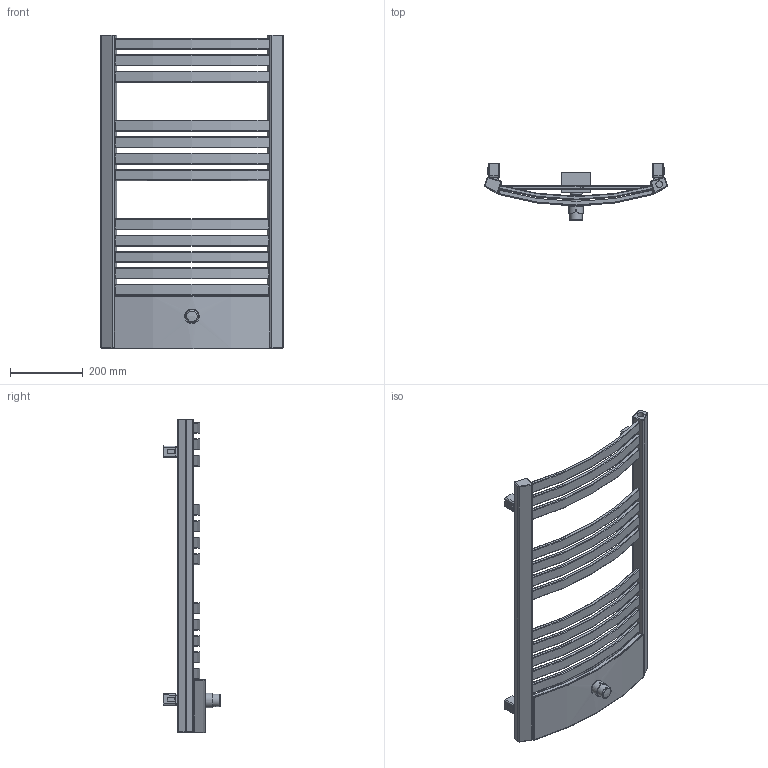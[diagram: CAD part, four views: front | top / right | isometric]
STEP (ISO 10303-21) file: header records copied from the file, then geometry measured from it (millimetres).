
FILE_DESCRIPTION((''),'2;1');
FILE_NAME('Z:\R\G\P\RGPH08 - Grzejnik Dexter pro\Work\Inventor\Dexter Pro v6.1\Marketing\STEP\DP-86-50-ZX.stp','2012-07-24T09:53:00',('PioRo'),(''),'Autodesk Inventor 2012','Autodesk Inventor 2012','');
FILE_SCHEMA(('AUTOMOTIVE_DESIGN { 1 0 10303 214 1 1 1 1 }'));
Length unit declared in the file: millimetre
Products named in the file (1): Część3
Bounding box: 500.11 x 157.77 x 862 mm (x, y, z)
Volume: 4095601.7 mm3; surface area: 902917.8 mm2
Topology: 1 solids, 4 shells, 550 faces, 1417 edges, 896 vertices
Faces by surface type: plane 245, cylinder 179, torus 87, bspline 32, cone 5, sphere 2
Full cylindrical faces by diameter (mm): 7 x3, 18.631 x3, 32.4 x1, 33 x1, 34 x2, 35 x2, 36 x1, 36.4 x1, 36.6 x1, 37.2 x1, 40 x1
Entity records: 18963 total; most frequent: CARTESIAN_POINT 5150, ORIENTED_EDGE 2764, DIRECTION 2725, EDGE_CURVE 1382, AXIS2_PLACEMENT_3D 1000, VERTEX_POINT 885, VECTOR 725, LINE 725
